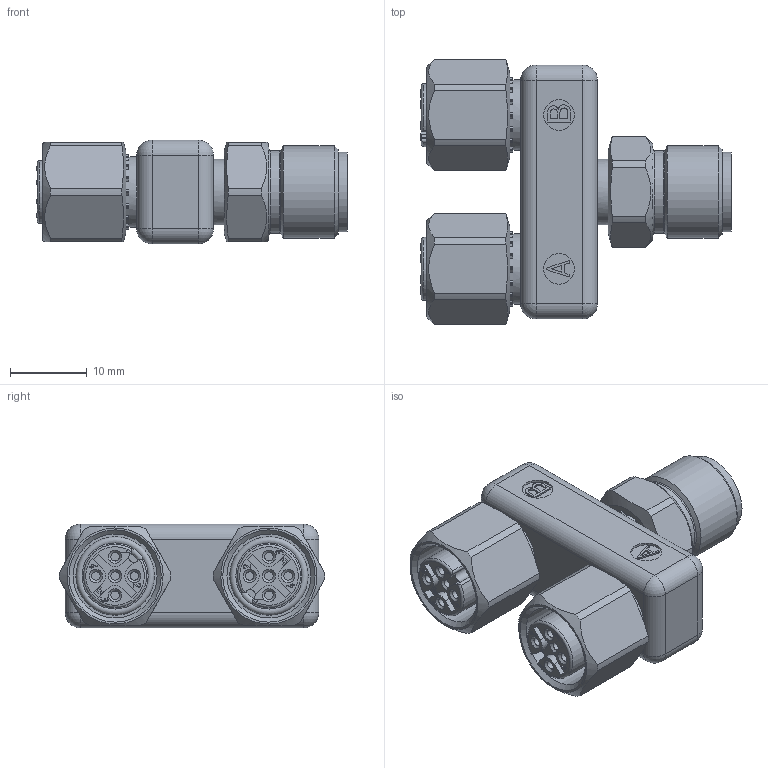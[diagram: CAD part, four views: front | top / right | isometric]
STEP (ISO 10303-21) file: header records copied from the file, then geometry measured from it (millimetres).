
FILE_DESCRIPTION(/* description */ (''),/* implementation_level */ '2;1');
FILE_NAME(/* name */ '79_5210_17_05_001.stp',/* time_stamp */ '2021-05-10T12:11:54+02:00',/* author */ (''),/* organization */ (''),/* preprocessor_version */ 'ST-DEVELOPER v16',/* originating_system */ 'SIEMENS PLM Software NX 11.0',/* authorisation */ '');
FILE_SCHEMA (('AUTOMOTIVE_DESIGN { 1 0 10303 214 3 1 1 1 }'));
Length unit declared in the file: millimetre
Products named in the file (1): rhen3F084B49vo2a
Bounding box: 40.4 x 34.5 x 13.5 mm (x, y, z)
Volume: 8423.9 mm3; surface area: 5446.8 mm2
Topology: 1 solids, 2 shells, 798 faces, 2163 edges, 1419 vertices
Faces by surface type: plane 435, cylinder 247, extrusion 72, cone 23, sphere 13, torus 8
Full cylindrical faces by diameter (mm): 1 x5, 1.1 x15, 1.6 x10, 4 x2, 8.3 x1, 8.5 x1, 9.2 x2, 10.1 x2, 10.4 x1, 10.7 x1, 10.9 x2, 12 x1
Entity records: 30120 total; most frequent: CARTESIAN_POINT 6795, ORIENTED_EDGE 4070, DIRECTION 3870, EDGE_CURVE 2035, VERTEX_POINT 1381, AXIS2_PLACEMENT_3D 1348, VECTOR 1174, LINE 1102
